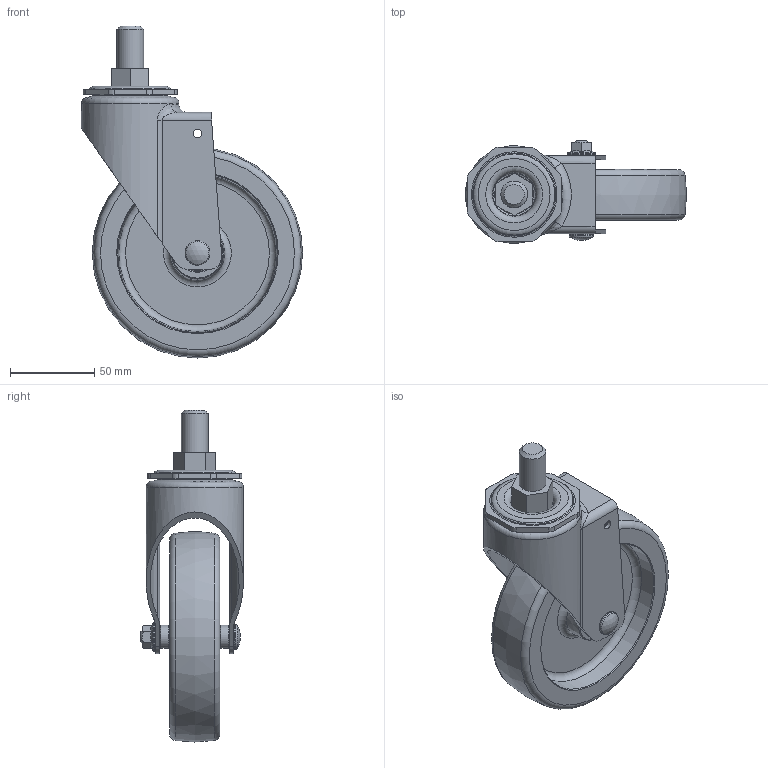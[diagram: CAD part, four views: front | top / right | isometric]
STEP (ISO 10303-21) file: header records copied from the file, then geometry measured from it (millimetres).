
FILE_DESCRIPTION(/* description */ (''),/* implementation_level */ '2;1');
FILE_NAME(/* name */ 'C:\Users\황치선\Desktop\frd\PL-125-ASS-FRD.stp',/* time_stamp */ '2015-07-09T10:26:07+09:00',/* author */ ('황치선'),/* organization */ (''),/* preprocessor_version */ 'ST-DEVELOPER v15.6',/* originating_system */ 'Autodesk Inventor 2015',/* authorisation */ '');
FILE_SCHEMA (('AUTOMOTIVE_DESIGN { 1 0 10303 214 3 1 1 }'));
Length unit declared in the file: centimetre
Products named in the file (1): PL-125-ASS-FRD
Bounding box: 131.5 x 61.25 x 197.4 mm (x, y, z)
Volume: 272614.2 mm3; surface area: 92786.1 mm2
Topology: 1 solids, 5 shells, 365 faces, 851 edges, 521 vertices
Faces by surface type: plane 145, cylinder 122, torus 47, cone 45, bspline 5, sphere 1
Full cylindrical faces by diameter (mm): 5.2 x2, 8 x3, 8.2 x3, 12.5 x1, 13.8 x3, 14.6 x1, 15.875 x1, 17 x1, 19 x1, 22 x2, 24.667 x2, 32.333 x2, 34 x1, 36 x1, 41 x1, 53 x1, 58 x1
Entity records: 10885 total; most frequent: CARTESIAN_POINT 2686, DIRECTION 1678, ORIENTED_EDGE 1450, EDGE_CURVE 725, AXIS2_PLACEMENT_3D 697, EDGE_LOOP 514, VERTEX_POINT 499, STYLED_ITEM 366
